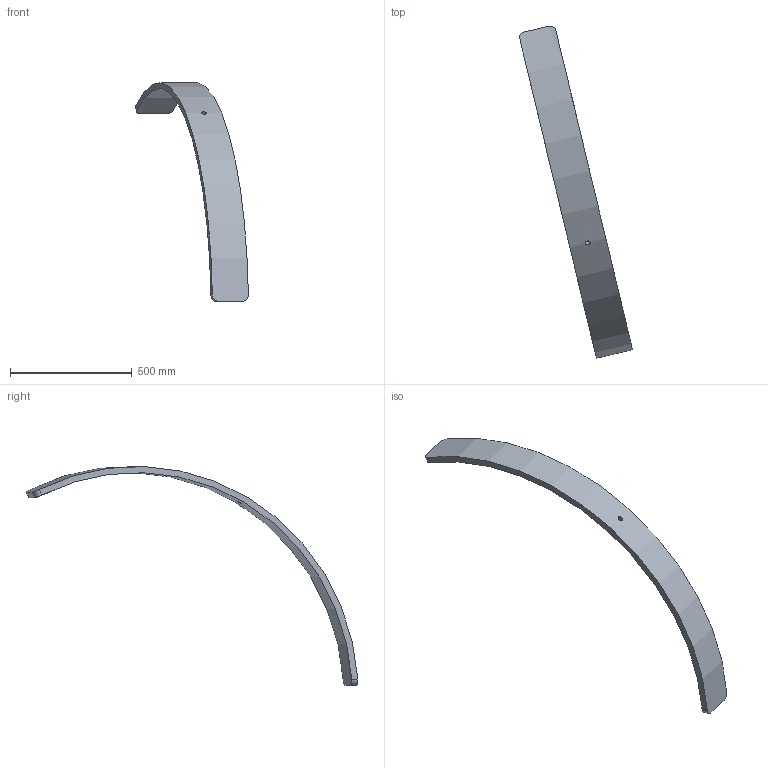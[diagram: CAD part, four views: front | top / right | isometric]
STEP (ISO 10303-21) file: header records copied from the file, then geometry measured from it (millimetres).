
FILE_DESCRIPTION (( 'STEP AP214' ), '1' );
FILE_NAME ('Section 12 AR.STEP', '2025-01-09T19:43:25', ( '' ), ( '' ), 'SwSTEP 2.0', 'SolidWorks 2024', '' );
FILE_SCHEMA (( 'AUTOMOTIVE_DESIGN' ));
Length unit declared in the file: inch
Products named in the file (1): Section 12 AR
Bounding box: 463.62 x 1364.14 x 900 mm (x, y, z)
Volume: 7186270 mm3; surface area: 668624.2 mm2
Topology: 1 solids, 1 shells, 11 faces, 27 edges, 18 vertices
Faces by surface type: cylinder 7, plane 4
Full cylindrical faces by diameter (mm): 19.447 x1
Entity records: 745 total; most frequent: CARTESIAN_POINT 470, ORIENTED_EDGE 52, DIRECTION 44, EDGE_CURVE 26, VERTEX_POINT 18, AXIS2_PLACEMENT_3D 16, EDGE_LOOP 14, FACE_OUTER_BOUND 12
